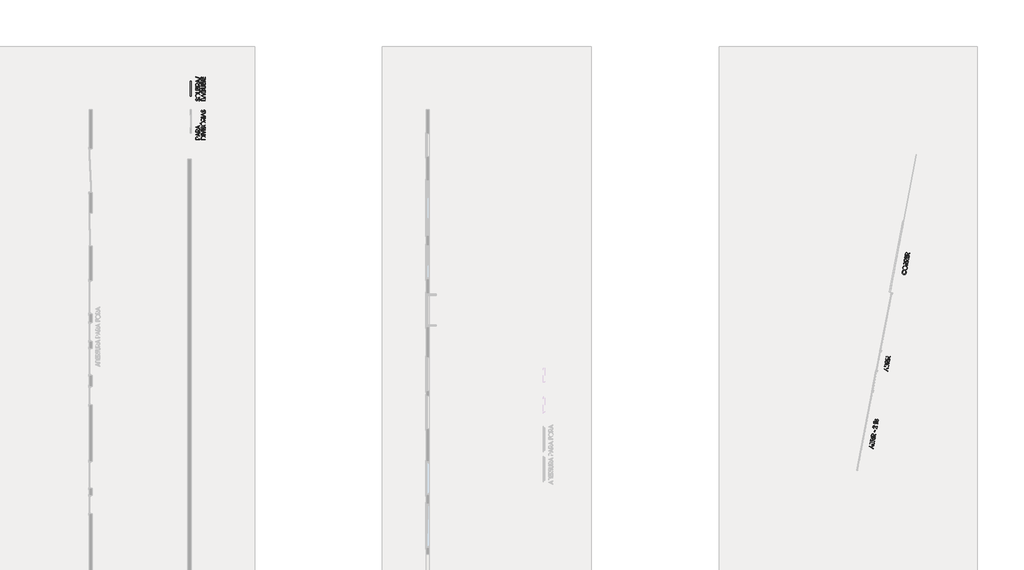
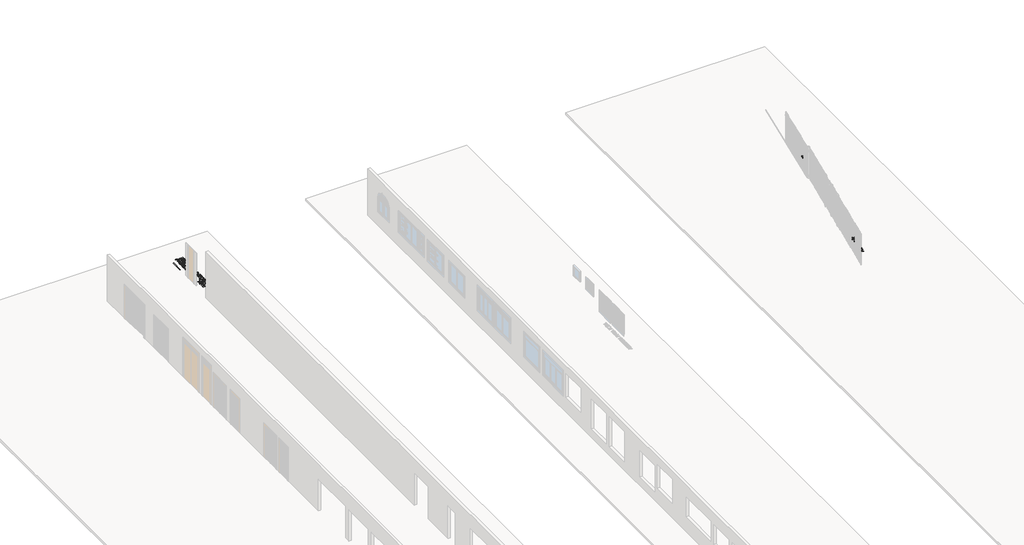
# One storey, part 15 of 15: 6 proxies.
"""IFC4 building model written with IfcOpenShell, lengths in millimetres."""

from ifc_helpers import new_model, si_unit, origin, origin_with_axes, place, context, project, spatial, polyline, outline, extrude, transform, mapped, element, save
from components import generic_models_b3cb257f

model = new_model("IFC4")

# Units and contexts
model_context = context("Model", 3, world=origin())
ifc_project = project(units=[si_unit("LENGTHUNIT", "METRE", prefix="MILLI")], contexts=[model_context])

# Site, building, storey
site = spatial("IfcSite", under=ifc_project)
building = spatial("IfcBuilding", under=site)
storey = spatial("IfcBuildingStorey", under=building, Name="TÉRREO", Elevation=0.0)

# Proxies
placement = place(None, origin())
generic_models_shape = generic_models_b3cb257f(model_context)
element("IfcBuildingElementProxy", 1, Name="gmod - SOLEIRA INTERNA : BAGUETE 3 cm", ObjectType="gmod - SOLEIRA INTERNA : BAGUETE 3 cm", at=placement, inside=storey, context=model_context, shape_type="MappedRepresentation", body=[
    mapped(generic_models_shape, transform((13203.8161052, 30425.931803, 0.0), x_axis=(0.0, 1.0, 0.0), y_axis=(-1.0, 0.0, 0.0), z_axis=(0.0, 0.0, 1.0))),
])
element("IfcBuildingElementProxy", 2, Name="600mm Arial", ObjectType="600mm Arial", at=placement, inside=storey, context=model_context, shape_type="SweptSolid", body=[
    extrude(outline(polyline([(45051.3266741, 13978.0995642), (45251.2228158, 14025.8273413), (45247.7095411, 14005.9025702), (45177.7407751, 13989.1688315), (45165.7768807, 13921.3182152), (45225.8112655, 13881.7112782), (45222.2979908, 13861.7865071), (45050.7809227, 13975.0044541), (45051.3266741, 13978.0995642)]), holes=[polyline([(45093.4095903, 13969.0336755), (45151.4781068, 13930.7208034), (45161.0884482, 13985.2237575), (45093.4095903, 13969.0336755)])]), origin_with_axes(), (0.0, 0.0, 1.0), 10.0),
    extrude(outline(polyline([(45070.9737251, 14089.5235271), (45077.4118863, 14126.0361538), (45082.1370948, 14145.3046791), (45088.5357627, 14159.0049364), (45096.9309378, 14168.4387767), (45107.6456677, 14174.908051), (45119.8159222, 14178.0726973), (45132.5776708, 14177.5926535), (45153.6909773, 14167.8112469), (45161.4685534, 14158.9663785), (45166.8519382, 14147.713849), (45182.4651205, 14167.8237885), (45200.8704704, 14177.0446036), (45222.3080378, 14177.7274727), (45242.4844476, 14169.9500271), (45257.7476922, 14154.5993046), (45266.1375391, 14133.3548279), (45265.6937557, 14107.8961196), (45256.68033, 14056.7784421), (45070.9737251, 14089.5235271)]), holes=[polyline([(45167.101536, 14091.7216451), (45244.479288, 14078.0778597), (45248.5638963, 14101.2428242), (45249.5268088, 14132.0140829), (45238.7130577, 14149.7279488), (45219.8556679, 14159.011847), (45206.9083458, 14159.1817926), (45194.9551483, 14154.9504139), (45184.7989389, 14146.6997237), (45177.2425811, 14134.811735), (45168.9519744, 14102.2160027), (45167.101536, 14091.7216451)]), polyline([(45089.723784, 14105.3654305), (45151.6259856, 14094.4504022), (45153.5020061, 14105.0898431), (45154.7681124, 14134.1870378), (45145.4849797, 14150.6835851), (45128.4810237, 14159.1669583), (45116.257366, 14159.0223096), (45106.0882733, 14153.9153672), (45098.3749152, 14143.3640102), (45093.5184618, 14126.8861178), (45089.723784, 14105.3654305)])]), origin_with_axes(), (0.0, 0.0, 1.0), 10.0),
    extrude(outline(polyline([(45097.169793, 14238.088811), (45103.7785016, 14275.5686596), (45113.6750562, 14317.5549716), (45122.1115327, 14331.7124427), (45134.1691385, 14342.0151379), (45148.9590358, 14347.5227598), (45165.5923865, 14347.2950113), (45179.0021821, 14343.0668094), (45190.0214673, 14335.5327326), (45198.2124659, 14325.0379956), (45203.1374015, 14311.9278128), (45204.6001299, 14295.1958441), (45202.404507, 14273.8357496), (45304.1607031, 14326.0530192), (45300.1869506, 14303.5167489), (45198.4307545, 14251.2994793), (45196.392714, 14239.7411776), (45286.1509064, 14223.9143865), (45282.8763979, 14205.343726), (45097.169793, 14238.088811)]), holes=[polyline([(45115.9198519, 14253.9307144), (45180.9171636, 14242.4699346), (45186.9006894, 14275.2730087), (45188.253589, 14304.1554406), (45179.1383186, 14320.4727951), (45162.1727947, 14328.7499329), (45143.8219282, 14326.6252306), (45130.1732564, 14314.9700144), (45121.8463712, 14287.5416754), (45115.9198519, 14253.9307144)])]), origin_with_axes(), (0.0, 0.0, 1.0), 10.0),
    extrude(outline(polyline([(45125.0031152, 14395.9394251), (45128.2776237, 14414.5100856), (45313.9842286, 14381.7650006), (45310.7097201, 14363.1943402), (45125.0031152, 14395.9394251)])), origin_with_axes(), (0.0, 0.0, 1.0), 10.0),
    extrude(outline(polyline([(45135.9181435, 14457.8416267), (45142.5268521, 14495.3214753), (45152.4234067, 14537.3077874), (45160.8598832, 14551.4652585), (45172.917489, 14561.7679536), (45187.7073863, 14567.2755756), (45204.340737, 14567.047827), (45217.7505326, 14562.8196251), (45228.7698178, 14555.2855484), (45236.9608164, 14544.7908113), (45241.885752, 14531.6806285), (45243.3484804, 14514.9486599), (45241.1528575, 14493.5885653), (45342.9090536, 14545.8058349), (45338.9353011, 14523.2695647), (45237.179105, 14471.052295), (45235.1410645, 14459.4939933), (45324.8992569, 14443.6672023), (45321.6247484, 14425.0965418), (45135.9181435, 14457.8416267)]), holes=[polyline([(45154.6682024, 14473.6835301), (45219.6655141, 14462.2227504), (45225.6490399, 14495.0258244), (45227.0019395, 14523.9082564), (45217.8866691, 14540.2256109), (45200.9211452, 14548.5027486), (45182.5702787, 14546.3780463), (45168.9216069, 14534.7228301), (45160.5947217, 14507.2944911), (45154.6682024, 14473.6835301)])]), origin_with_axes(), (0.0, 0.0, 1.0), 10.0),
    extrude(outline(polyline([(45281.903844, 14652.3029227), (45294.4561266, 14723.4904546), (45309.931677, 14720.7616975), (45297.3793945, 14649.5741657), (45281.903844, 14652.3029227)])), origin_with_axes(), (0.0, 0.0, 1.0), 10.0),
    extrude(outline(polyline([(45262.0320576, 14847.2873017), (45258.7575491, 14828.7166412), (45236.1889285, 14837.7386657), (45219.6834506, 14854.280789), (45210.703633, 14875.8910832), (45210.703633, 14900.11762), (45218.8753318, 14922.2704392), (45234.4457225, 14938.1431915), (45254.5110471, 14946.7035561), (45276.1591873, 14946.9192125), (45291.0994832, 14942.3214127), (45304.3889368, 14934.0878558), (45336.5333985, 14897.9276561), (45379.0240667, 14841.1192168), (45394.5609273, 14929.233132), (45410.0364777, 14926.5043749), (45387.6606697, 14799.6048616), (45324.7896199, 14883.6427796), (45294.7860736, 14917.8048754), (45283.945734, 14924.7277221), (45271.917457, 14928.5190993), (45256.5678366, 14928.3210328), (45242.4372982, 14922.0987717), (45231.5759877, 14911.0864904), (45226.0340511, 14896.5183632), (45226.1024552, 14880.2566427), (45232.3791521, 14865.9045808), (45244.4828001, 14854.5516448), (45262.0320576, 14847.2873017)])), origin_with_axes(), (0.0, 0.0, 1.0), 10.0),
    extrude(outline(polyline([(45245.8624733, 15115.0197204), (45262.0150791, 15112.1715802), (45255.1300709, 15097.7280772), (45255.856609, 15089.5468199), (45260.0020018, 15084.7768346), (45274.4421704, 15081.4078758), (45293.1579142, 15078.1077852), (45298.0440948, 15105.8186926), (45313.5196453, 15103.0899355), (45308.6249372, 15075.330667), (45432.4293405, 15053.5006104), (45429.1377773, 15034.8332277), (45305.333374, 15056.6632843), (45302.0588655, 15038.0926238), (45286.5833151, 15040.8213809), (45289.8578236, 15059.3920414), (45268.7240251, 15063.1185003), (45248.4134125, 15069.3925031), (45239.9674375, 15080.0319287), (45238.8358934, 15095.8141691), (45245.8624733, 15115.0197204)])), origin_with_axes(), (0.0, 0.0, 1.0), 10.0),
    extrude(outline(polyline([(45249.7932348, 15139.8573473), (45253.0677433, 15158.4280078), (45444.9645683, 15124.5914201), (45441.6900598, 15106.0207596), (45249.7932348, 15139.8573473)])), origin_with_axes(), (0.0, 0.0, 1.0), 10.0),
    extrude(outline(polyline([(45341.3875492, 15257.7431112), (45351.175198, 15244.2492155), (45337.1574225, 15232.6216837), (45330.9328501, 15219.9441205), (45331.0249991, 15211.9121216), (45334.2519149, 15204.549064), (45339.7941733, 15198.9343972), (45346.8323503, 15196.147571), (45360.8563595, 15198.7609592), (45379.5150663, 15216.9127466), (45392.6669523, 15231.3357872), (45404.2152804, 15239.6339644), (45415.3454209, 15242.9446123), (45427.0834095, 15242.6326189), (45442.267805, 15236.8386565), (45453.7747807, 15225.4600351), (45460.2265394, 15210.2979691), (45460.2265394, 15193.1536734), (45451.3174406, 15170.9424314), (45434.6909472, 15155.1250037), (45423.9901618, 15168.5305865), (45438.0377831, 15180.3273821), (45444.4883307, 15194.2865144), (45444.4435468, 15204.3546141), (45440.5912636, 15213.473476), (45433.8803647, 15220.3787629), (45425.2597339, 15223.8061374), (45410.3737524, 15221.3946029), (45391.282835, 15201.9228143), (45378.948005, 15188.1036752), (45367.8028607, 15180.1831881), (45356.8611705, 15176.9515069), (45345.153758, 15177.2955075), (45331.2410173, 15182.5598215), (45320.9375071, 15192.8099756), (45315.2966894, 15206.5263355), (45315.372026, 15222.1892666), (45323.58138, 15240.7499468), (45341.3875492, 15257.7431112)])), origin_with_axes(), (0.0, 0.0, 1.0), 10.0),
])
element("IfcBuildingElementProxy", 3, Name="600mm Arial", ObjectType="600mm Arial", at=placement, inside=storey, context=model_context, shape_type="SweptSolid", body=[
    extrude(outline(polyline([(45734.2802654, 17625.6595653), (45934.176407, 17673.3873424), (45930.6631323, 17653.4625713), (45860.6943663, 17636.7288326), (45848.730472, 17568.8782163), (45908.7648568, 17529.2712793), (45905.251582, 17509.3465082), (45733.734514, 17622.5644552), (45734.2802654, 17625.6595653)]), holes=[polyline([(45776.3631816, 17616.5936766), (45834.4316981, 17578.2808045), (45844.0420394, 17632.7837586), (45776.3631816, 17616.5936766)])]), origin_with_axes(), (0.0, 0.0, 1.0), 10.0),
    extrude(outline(polyline([(45753.9273164, 17737.0835282), (45760.3654776, 17773.5961549), (45765.0906861, 17792.8646802), (45771.489354, 17806.5649375), (45779.884529, 17815.9987778), (45790.599259, 17822.4680521), (45802.7695134, 17825.6326984), (45815.531262, 17825.1526546), (45836.6445686, 17815.371248), (45844.4221447, 17806.5263796), (45849.8055295, 17795.2738501), (45865.4187117, 17815.3837896), (45883.8240617, 17824.6046047), (45905.261629, 17825.2874738), (45925.4380389, 17817.5100282), (45940.7012835, 17802.1593057), (45949.0911303, 17780.914829), (45948.6473469, 17755.4561207), (45939.6339212, 17704.3384432), (45753.9273164, 17737.0835282)]), holes=[polyline([(45850.0551273, 17739.2816462), (45927.4328793, 17725.6378608), (45931.5174875, 17748.8028253), (45932.4804001, 17779.574084), (45921.666649, 17797.2879499), (45902.8092592, 17806.5718481), (45889.861937, 17806.7417937), (45877.9087396, 17802.510415), (45867.7525302, 17794.2597248), (45860.1961724, 17782.3717361), (45851.9055657, 17749.7760038), (45850.0551273, 17739.2816462)]), polyline([(45772.6773752, 17752.9254316), (45834.5795769, 17742.0104033), (45836.4555974, 17752.6498442), (45837.7217036, 17781.7470389), (45828.4385709, 17798.2435862), (45811.4346149, 17806.7269594), (45799.2109573, 17806.5823107), (45789.0418645, 17801.4753683), (45781.3285065, 17790.9240113), (45776.4720531, 17774.4461189), (45772.6773752, 17752.9254316)])]), origin_with_axes(), (0.0, 0.0, 1.0), 10.0),
    extrude(outline(polyline([(45780.1233843, 17885.6488121), (45786.7320928, 17923.1286607), (45796.6286475, 17965.1149727), (45805.0651239, 17979.2724438), (45817.1227298, 17989.575139), (45831.912627, 17995.0827609), (45848.5459778, 17994.8550124), (45861.9557733, 17990.6268105), (45872.9750586, 17983.0927337), (45881.1660572, 17972.5979967), (45886.0909928, 17959.4878139), (45887.5537212, 17942.7558452), (45885.3580982, 17921.3957507), (45987.1142944, 17973.6130203), (45983.1405419, 17951.07675), (45881.3843457, 17898.8594804), (45879.3463053, 17887.3011787), (45969.1044976, 17871.4743876), (45965.8299891, 17852.9037271), (45780.1233843, 17885.6488121)]), holes=[polyline([(45798.8734432, 17901.4907155), (45863.8707549, 17890.0299357), (45869.8542807, 17922.8330098), (45871.2071802, 17951.7154417), (45862.0919098, 17968.0327962), (45845.126386, 17976.309934), (45826.7755194, 17974.1852317), (45813.1268476, 17962.5300155), (45804.7999625, 17935.1016765), (45798.8734432, 17901.4907155)])]), origin_with_axes(), (0.0, 0.0, 1.0), 10.0),
    extrude(outline(polyline([(45807.9567065, 18043.4994262), (45811.231215, 18062.0700867), (45996.9378198, 18029.3250017), (45993.6633113, 18010.7543413), (45807.9567065, 18043.4994262)])), origin_with_axes(), (0.0, 0.0, 1.0), 10.0),
    extrude(outline(polyline([(45818.8717348, 18105.4016278), (45825.4804433, 18142.8814764), (45835.376998, 18184.8677885), (45843.8134744, 18199.0252596), (45855.8710803, 18209.3279547), (45870.6609775, 18214.8355767), (45887.2943283, 18214.6078281), (45900.7041238, 18210.3796262), (45911.7234091, 18202.8455495), (45919.9144077, 18192.3508124), (45924.8393433, 18179.2406296), (45926.3020717, 18162.508661), (45924.1064487, 18141.1485664), (46025.8626449, 18193.365836), (46021.8888924, 18170.8295658), (45920.1326962, 18118.6122961), (45918.0946558, 18107.0539944), (46007.8528481, 18091.2272034), (46004.5783397, 18072.6565429), (45818.8717348, 18105.4016278)]), holes=[polyline([(45837.6217937, 18121.2435312), (45902.6191054, 18109.7827515), (45908.6026312, 18142.5858255), (45909.9555307, 18171.4682575), (45900.8402603, 18187.785612), (45883.8747365, 18196.0627497), (45865.5238699, 18193.9380474), (45851.8751981, 18182.2828312), (45843.548313, 18154.8544922), (45837.6217937, 18121.2435312)])]), origin_with_axes(), (0.0, 0.0, 1.0), 10.0),
])
element("IfcBuildingElementProxy", 4, Name="600mm Arial", ObjectType="600mm Arial", at=placement, inside=storey, context=model_context, shape_type="SweptSolid", body=[
    extrude(outline(polyline([(46634.186204, 22243.9618492), (46642.910381, 22227.2646727), (46627.1849705, 22216.3807922), (46614.722857, 22202.4407356), (46605.7110304, 22185.7979829), (46600.3364805, 22166.8060143), (46599.288032, 22145.0940478), (46603.9196442, 22124.063467), (46613.613105, 22105.15716), (46627.7502022, 22089.8180151), (46645.7018174, 22078.6493767), (46666.8388323, 22072.2545892), (46699.3530156, 22072.4802931), (46714.2434617, 22077.3032452), (46728.2228108, 22085.2662641), (46740.4441314, 22095.8081147), (46750.0604921, 22108.3675619), (46761.4783341, 22139.5392459), (46762.8194647, 22158.4570461), (46760.0124365, 22176.4732098), (46753.0572495, 22193.5877369), (46741.9539036, 22209.8006274), (46755.7176358, 22222.5325787), (46767.9217831, 22204.467586), (46775.7184467, 22183.6767564), (46778.7960531, 22160.7261419), (46776.8430288, 22136.1817946), (46770.822151, 22113.7010664), (46761.2613014, 22094.4748937), (46748.1604801, 22078.5032765), (46731.5196869, 22065.7862147), (46715.5479471, 22058.065429), (46698.6885752, 22053.511738), (46662.3069353, 22053.9056403), (46643.366201, 22059.0670226), (46626.6353458, 22067.4819832), (46612.1143696, 22079.1505221), (46599.8032726, 22094.0726394), (46590.4674229, 22111.2158153), (46584.8721887, 22129.5475301), (46583.01757, 22149.067784), (46584.9035669, 22169.7765769), (46591.5223268, 22193.8098835), (46602.3225436, 22214.5503207), (46616.7339314, 22231.4502039), (46634.186204, 22243.9618492)])), origin_with_axes(), (0.0, 0.0, 1.0), 10.0),
    extrude(outline(polyline([(46621.5115486, 22377.3907578), (46626.799746, 22397.2627936), (46635.2455297, 22414.8047483), (46646.8488999, 22430.016622), (46661.6098565, 22442.8984146), (46678.44005, 22452.7039519), (46696.2511306, 22458.6870596), (46715.0430986, 22460.8477377), (46734.8159538, 22459.1859862), (46753.7914476, 22454.0184748), (46770.6265815, 22445.5851271), (46785.3213553, 22433.8859429), (46797.8757691, 22418.9209224), (46807.4767869, 22401.8587685), (46813.3113729, 22383.8681843), (46815.3795271, 22364.9491698), (46813.6812493, 22345.101725), (46808.4511373, 22325.6121317), (46800.0261168, 22308.3470048), (46788.406188, 22293.3063442), (46773.5913507, 22280.49015), (46756.7641799, 22270.6840798), (46739.1072502, 22264.6737911), (46720.6205616, 22262.459284), (46701.3041143, 22264.0405585), (46676.4837411, 22271.7455287), (46654.736215, 22285.5656104), (46637.3798591, 22304.3520839), (46625.7329965, 22326.9562294), (46620.2815765, 22351.8213522), (46621.5115486, 22377.3907578)]), holes=[polyline([(46637.1320642, 22375.4841393), (46636.2985961, 22354.8499886), (46641.0976169, 22334.3446339), (46650.9571142, 22315.6022759), (46665.3050757, 22300.2571154), (46683.407469, 22289.0244922), (46704.5302617, 22282.6197463), (46736.4538031, 22282.9246639), (46765.1959496, 22295.6583458), (46786.9921338, 22317.9940578), (46798.0777884, 22347.1050657), (46799.1088613, 22368.4710431), (46794.5445054, 22389.1407119), (46784.8727725, 22407.781398), (46770.5817143, 22423.0604272), (46752.497106, 22434.2525159), (46731.4447231, 22440.6323804), (46709.6733564, 22441.8034983), (46689.1416303, 22437.4205113), (46670.6602348, 22427.8391198), (46655.0398601, 22413.4150243), (46643.467979, 22395.5095793), (46637.1320642, 22375.4841393)])]), origin_with_axes(), (0.0, 0.0, 1.0), 10.0),
    extrude(outline(polyline([(46648.5600294, 22512.6913222), (46655.168738, 22550.1711709), (46665.0652926, 22592.1574829), (46673.5017691, 22606.314954), (46685.5593749, 22616.6176492), (46700.3492721, 22622.1252711), (46716.9826229, 22621.8975226), (46730.3924184, 22617.6693207), (46741.4117037, 22610.1352439), (46749.6027023, 22599.6405069), (46754.5276379, 22586.5303241), (46755.9903663, 22569.7983554), (46753.7947433, 22548.4382608), (46855.5509395, 22600.6555305), (46851.577187, 22578.1192602), (46749.8209909, 22525.9019906), (46747.7829504, 22514.3436888), (46837.5411428, 22498.5168978), (46834.2666343, 22479.9462373), (46648.5600294, 22512.6913222)]), holes=[polyline([(46667.3100883, 22528.5332256), (46732.3074, 22517.0724459), (46738.2909258, 22549.87552), (46739.6438254, 22578.7579519), (46730.5285549, 22595.0753064), (46713.5630311, 22603.3524442), (46695.2121645, 22601.2277419), (46681.5634928, 22589.5725256), (46673.2366076, 22562.1441867), (46667.3100883, 22528.5332256)])]), origin_with_axes(), (0.0, 0.0, 1.0), 10.0),
    extrude(outline(polyline([(46676.3933516, 22670.5419364), (46683.0020602, 22708.021785), (46692.8986148, 22750.008097), (46701.3350913, 22764.1655681), (46713.3926971, 22774.4682633), (46728.1825943, 22779.9758853), (46744.8159451, 22779.7481367), (46758.2257406, 22775.5199348), (46769.2450259, 22767.985858), (46777.4360245, 22757.491121), (46782.3609601, 22744.3809382), (46783.8236885, 22727.6489695), (46781.6280655, 22706.288875), (46883.3842617, 22758.5061446), (46879.4105092, 22735.9698743), (46777.654313, 22683.7526047), (46775.6162726, 22672.194303), (46865.374465, 22656.3675119), (46862.0999565, 22637.7968514), (46676.3933516, 22670.5419364)]), holes=[polyline([(46695.1434105, 22686.3838398), (46760.1407222, 22674.92306), (46766.124248, 22707.7261341), (46767.4771475, 22736.608566), (46758.3618771, 22752.9259205), (46741.3963533, 22761.2030583), (46723.0454867, 22759.078356), (46709.396815, 22747.4231398), (46701.0699298, 22719.9948008), (46695.1434105, 22686.3838398)])]), origin_with_axes(), (0.0, 0.0, 1.0), 10.0),
    extrude(outline(polyline([(46704.2266738, 22828.3925505), (46723.3279733, 22936.7214033), (46738.8035237, 22933.9926462), (46722.9767327, 22844.2344539), (46784.8789343, 22833.3194256), (46800.7057254, 22923.0776179), (46816.1812758, 22920.3488609), (46800.3544847, 22830.5906685), (46877.7322367, 22816.9468831), (46893.5590278, 22906.7050755), (46909.0345782, 22903.9763184), (46889.9332786, 22795.6474656), (46704.2266738, 22828.3925505)])), origin_with_axes(), (0.0, 0.0, 1.0), 10.0),
    extrude(outline(polyline([(46728.7854875, 22967.6725041), (46735.394196, 23005.1523528), (46745.2907507, 23047.1386648), (46753.7272271, 23061.2961359), (46765.784833, 23071.5988311), (46780.5747302, 23077.106453), (46797.208081, 23076.8787045), (46810.6178765, 23072.6505025), (46821.6371618, 23065.1164258), (46829.8281604, 23054.6216888), (46834.753096, 23041.511506), (46836.2158244, 23024.7795373), (46834.0202014, 23003.4194427), (46935.7763976, 23055.6367124), (46931.8026451, 23033.1004421), (46830.0464489, 22980.8831724), (46828.0084085, 22969.3248707), (46917.7666008, 22953.4980797), (46914.4920923, 22934.9274192), (46728.7854875, 22967.6725041)]), holes=[polyline([(46747.5355464, 22983.5144075), (46812.5328581, 22972.0536278), (46818.5163839, 23004.8567019), (46819.8692834, 23033.7391338), (46810.754013, 23050.0564883), (46793.7884892, 23058.3336261), (46775.4376226, 23056.2089238), (46761.7889508, 23044.5537075), (46753.4620657, 23017.1253686), (46747.5355464, 22983.5144075)])]), origin_with_axes(), (0.0, 0.0, 1.0), 10.0),
])
element("IfcBuildingElementProxy", 5, Name="600mm Arial", ObjectType="600mm Arial", at=placement, inside=storey, context=model_context, shape_type="SweptSolid", body=[
    extrude(outline(polyline([(13586.6446281, 30207.3073901), (13576.970521, 30223.4145329), (13600.5419496, 30242.6890865), (13606.4348067, 30253.3760285), (13608.3990924, 30264.7627472), (13603.8321281, 30283.5707829), (13591.6044496, 30296.9770329), (13575.3499853, 30301.5931044), (13565.6390478, 30299.9111847), (13556.1490924, 30294.8654258), (13542.2272174, 30281.8029258), (13525.7026639, 30261.0797115), (13499.8231996, 30230.3386401), (13486.4292264, 30222.493774), (13471.9794496, 30219.8788186), (13460.6172844, 30221.3888633), (13450.298646, 30225.9189972), (13441.5452978, 30233.1868544), (13434.8790031, 30242.9100686), (13429.2562353, 30266.6779258), (13434.8053424, 30292.1890865), (13442.6870389, 30304.3983499), (13455.2339139, 30317.3073901), (13466.970521, 30301.8386401), (13449.2428424, 30282.8832829), (13444.970521, 30265.7939972), (13446.7322397, 30254.9535954), (13452.017396, 30246.2984615), (13459.892954, 30240.6265865), (13469.4258781, 30238.7359615), (13481.5553424, 30241.3877472), (13494.3723067, 30251.0618544), (13513.6223067, 30276.2538186), (13530.5704094, 30297.6154258), (13545.5665031, 30311.0216758), (13559.6172844, 30318.0931044), (13573.7294496, 30320.4502472), (13592.7339139, 30316.4602919), (13609.0865924, 30304.4904258), (13620.3566817, 30286.7995776), (13624.1133781, 30265.6466758), (13621.9588022, 30248.8765865), (13615.4950746, 30233.7270329), (13603.9733112, 30219.9524794), (13586.6446281, 30207.3073901)])), origin_with_axes(), (0.0, 0.0, 1.0), 10.0),
    extrude(outline(polyline([(13429.2562353, 30449.6511401), (13431.0133502, 30470.1395608), (13436.2846951, 30488.8816088), (13445.0702699, 30505.877284), (13457.3700746, 30521.1265865), (13472.2418659, 30533.7056881), (13488.7434005, 30542.6907606), (13506.8746784, 30548.0818041), (13526.6356996, 30549.8788186), (13546.220242, 30548.0848733), (13564.2640478, 30542.7030374), (13580.767117, 30533.7333108), (13595.7294496, 30521.1756936), (13608.1474183, 30506.0399515), (13617.017396, 30489.3358499), (13622.3393826, 30471.063389), (13624.1133781, 30451.2225686), (13622.3470556, 30431.1208666), (13617.048088, 30412.6550463), (13608.2164752, 30395.8251077), (13595.8522174, 30380.6310508), (13580.9834953, 30368.0519492), (13564.6384897, 30359.0668767), (13546.8172007, 30353.6758332), (13527.5196281, 30351.8788186), (13501.7383781, 30355.1567204), (13477.9214139, 30364.9904258), (13457.5665031, 30380.477591), (13442.1714139, 30400.7158722), (13432.4850299, 30424.2566088), (13429.2562353, 30449.6511401)]), holes=[polyline([(13444.970521, 30450.4859615), (13447.7327978, 30430.0205597), (13456.0196281, 30410.6600686), (13468.9839139, 30393.9145329), (13485.7785567, 30381.2939972), (13505.5564585, 30373.3754704), (13527.470521, 30370.7359615), (13558.8561237, 30376.5797115), (13584.9504317, 30394.1109615), (13602.5369272, 30419.8922115), (13608.3990924, 30450.4859615), (13605.704338, 30471.7063856), (13597.6200746, 30491.2694436), (13584.8583558, 30507.947457), (13568.1312353, 30520.5127472), (13548.3778871, 30528.3944436), (13526.5374853, 30531.0216758), (13504.8935121, 30528.3944436), (13485.4348067, 30520.5127472), (13468.8979764, 30507.8676579), (13456.0196281, 30490.9502472), (13447.7327978, 30471.3073901), (13444.970521, 30450.4859615)])]), origin_with_axes(), (0.0, 0.0, 1.0), 10.0),
    extrude(outline(polyline([(13432.3990924, 30587.5931044), (13432.3990924, 30606.4502472), (13605.2562353, 30606.4502472), (13605.2562353, 30681.8788186), (13620.970521, 30681.8788186), (13620.970521, 30587.5931044), (13432.3990924, 30587.5931044)])), origin_with_axes(), (0.0, 0.0, 1.0), 10.0),
    extrude(outline(polyline([(13432.3990924, 30710.1645329), (13432.3990924, 30820.1645329), (13448.1133781, 30820.1645329), (13448.1133781, 30729.0216758), (13510.970521, 30729.0216758), (13510.970521, 30820.1645329), (13526.6848067, 30820.1645329), (13526.6848067, 30729.0216758), (13605.2562353, 30729.0216758), (13605.2562353, 30820.1645329), (13620.970521, 30820.1645329), (13620.970521, 30710.1645329), (13432.3990924, 30710.1645329)])), origin_with_axes(), (0.0, 0.0, 1.0), 10.0),
    extrude(outline(polyline([(13432.3990924, 30851.5931044), (13432.3990924, 30870.4502472), (13620.970521, 30870.4502472), (13620.970521, 30851.5931044), (13432.3990924, 30851.5931044)])), origin_with_axes(), (0.0, 0.0, 1.0), 10.0),
    extrude(outline(polyline([(13432.3990924, 30914.4502472), (13432.3990924, 30952.5082829), (13434.8544496, 30995.5752472), (13440.704338, 31010.9826133), (13450.7897174, 31023.2225686), (13464.3985344, 31031.2147561), (13480.8187353, 31033.8788186), (13494.7590255, 31032.0434392), (13506.9191817, 31026.5373008), (13516.8081326, 31017.6243544), (13523.9348067, 31005.5685508), (13528.2807889, 30989.3447785), (13529.8276639, 30967.9279258), (13620.970521, 31037.0216758), (13620.970521, 31014.1377472), (13529.8276639, 30945.0439972), (13529.8276639, 30933.3073901), (13620.970521, 30933.3073901), (13620.970521, 30914.4502472), (13432.3990924, 30914.4502472)]), holes=[polyline([(13448.1133781, 30933.3073901), (13514.1133781, 30933.3073901), (13514.3098067, 30966.6511401), (13510.626771, 30995.3297115), (13498.8165031, 31009.8163186), (13480.6714139, 31015.0216758), (13462.9682889, 31009.7426579), (13451.5508781, 30995.8944436), (13448.1133781, 30967.4368544), (13448.1133781, 30933.3073901)])]), origin_with_axes(), (0.0, 0.0, 1.0), 10.0),
    extrude(outline(polyline([(13432.3990924, 31147.0216758), (13620.970521, 31228.7359615), (13620.970521, 31208.5038186), (13554.970521, 31179.8743544), (13554.970521, 31110.9770329), (13620.970521, 31082.3966758), (13620.970521, 31062.1645329), (13432.3990924, 31143.8788186), (13432.3990924, 31147.0216758)]), holes=[polyline([(13475.4169496, 31145.4011401), (13539.2562353, 31117.7538186), (13539.2562353, 31173.0975686), (13475.4169496, 31145.4011401)])]), origin_with_axes(), (0.0, 0.0, 1.0), 10.0),
    extrude(outline(polyline([(13426.1133781, 31345.0216758), (13646.1133781, 31267.3832829), (13646.1133781, 31247.5931044), (13426.1133781, 31325.2314972), (13426.1133781, 31345.0216758)])), origin_with_axes(), (0.0, 0.0, 1.0), 10.0),
    extrude(outline(polyline([(13689.5419496, 30226.1645329), (13689.5419496, 30263.2404258), (13690.8494272, 30283.0367427), (13694.7718603, 30297.6399794), (13701.4013246, 30308.3883052), (13710.829896, 30316.6198901), (13722.2657219, 30321.8498008), (13734.9169496, 30323.5931044), (13757.408021, 30317.6265865), (13766.6033335, 30310.2666535), (13773.8589139, 30300.1198901), (13785.7428424, 30322.6355151), (13802.267396, 30334.9123008), (13823.2606996, 30339.3073901), (13844.4811237, 30335.1516981), (13862.1781103, 30322.6846222), (13874.1295612, 30303.2197785), (13878.1133781, 30278.0707829), (13878.1133781, 30226.1645329), (13689.5419496, 30226.1645329)]), holes=[polyline([(13705.2562353, 30245.0216758), (13768.1133781, 30245.0216758), (13768.1133781, 30255.8252472), (13764.3075746, 30284.7002472), (13752.3008781, 30299.3341758), (13734.0821281, 30304.7359615), (13722.0692933, 30302.4708945), (13712.9415031, 30295.6756936), (13707.1775522, 30283.9452249), (13705.2562353, 30266.8743544), (13705.2562353, 30245.0216758)]), polyline([(13783.8276639, 30245.0216758), (13862.3990924, 30245.0216758), (13862.3990924, 30268.5439972), (13858.0040031, 30299.0149794), (13844.2785567, 30314.5819436), (13824.095521, 30320.4502472), (13811.3153871, 30318.369332), (13800.2785567, 30312.1265865), (13791.7093603, 30302.2376356), (13786.3321281, 30289.2181044), (13783.8276639, 30255.6779258), (13783.8276639, 30245.0216758)])]), origin_with_axes(), (0.0, 0.0, 1.0), 10.0),
    extrude(outline(polyline([(13689.5419496, 30449.3073901), (13878.1133781, 30531.0216758), (13878.1133781, 30510.7895329), (13812.1133781, 30482.1600686), (13812.1133781, 30413.2627472), (13878.1133781, 30384.6823901), (13878.1133781, 30364.4502472), (13689.5419496, 30446.1645329), (13689.5419496, 30449.3073901)]), holes=[polyline([(13732.5598067, 30447.6868544), (13796.3990924, 30420.0395329), (13796.3990924, 30475.3832829), (13732.5598067, 30447.6868544)])]), origin_with_axes(), (0.0, 0.0, 1.0), 10.0),
    extrude(outline(polyline([(13719.6446281, 30741.5931044), (13733.5419496, 30726.9100686), (13719.9454094, 30710.759957), (13710.0932889, 30693.1489079), (13704.1083558, 30675.0467874), (13702.1133781, 30657.4234615), (13704.8695165, 30636.2828365), (13713.1379317, 30616.1734615), (13726.1329094, 30598.7833945), (13743.0687353, 30585.8006936), (13762.5028871, 30577.7164302), (13782.9928424, 30575.0216758), (13804.0106996, 30577.8760285), (13823.9481996, 30586.4390865), (13841.2707442, 30600.0417651), (13854.4437353, 30618.0149794), (13862.767396, 30639.1249124), (13865.5419496, 30662.1377472), (13861.1714139, 30689.0484615), (13848.0598067, 30711.4413186), (13827.9749853, 30727.4748008), (13802.6848067, 30735.3073901), (13802.6848067, 30675.5931044), (13786.970521, 30675.5931044), (13786.970521, 30754.1645329), (13807.5126527, 30752.4749403), (13825.8265478, 30747.6516981), (13841.9122063, 30739.6948064), (13855.7696281, 30728.6042651), (13866.9200188, 30714.877284), (13874.8845835, 30699.0110731), (13879.6633223, 30681.0056323), (13881.2562353, 30660.8609615), (13879.064829, 30636.4455039), (13872.4906103, 30614.712524), (13861.533579, 30595.6620218), (13846.1937353, 30579.2939972), (13817.0854764, 30561.946899), (13783.7785567, 30556.1645329), (13758.3226415, 30559.4485731), (13734.6959674, 30569.3006936), (13714.4638246, 30584.8860731), (13699.1915031, 30605.3698901), (13689.5971951, 30629.8006936), (13686.3990924, 30657.2270329), (13688.3756549, 30679.9268097), (13694.3053424, 30701.2761401), (13704.5932889, 30721.6924347), (13719.6446281, 30741.5931044)])), origin_with_axes(), (0.0, 0.0, 1.0), 10.0),
    extrude(outline(polyline([(13689.5419496, 30791.8788186), (13689.5419496, 30810.7359615), (13803.7651639, 30810.7359615), (13829.1535567, 30811.5216758), (13847.8633781, 30818.1265865), (13860.4593603, 30834.0373008), (13865.5419496, 30855.6198901), (13861.564271, 30873.7649794), (13850.4906103, 30888.2515865), (13833.376771, 30896.7716758), (13803.7651639, 30898.7359615), (13689.5419496, 30898.7359615), (13689.5419496, 30917.5931044), (13802.439271, 30917.5931044), (13842.9281103, 30912.6332829), (13857.3717487, 30905.181274), (13869.814271, 30892.7448901), (13878.3957442, 30876.2571669), (13881.2562353, 30856.6511401), (13878.5553424, 30835.3509169), (13870.4526639, 30817.3163186), (13857.8935121, 30803.6277026), (13841.8231996, 30795.3654258), (13802.439271, 30791.8788186), (13689.5419496, 30791.8788186)])), origin_with_axes(), (0.0, 0.0, 1.0), 10.0),
    extrude(outline(polyline([(13689.5419496, 30961.5931044), (13689.5419496, 31071.5931044), (13705.2562353, 31071.5931044), (13705.2562353, 30980.4502472), (13768.1133781, 30980.4502472), (13768.1133781, 31071.5931044), (13783.8276639, 31071.5931044), (13783.8276639, 30980.4502472), (13862.3990924, 30980.4502472), (13862.3990924, 31071.5931044), (13878.1133781, 31071.5931044), (13878.1133781, 30961.5931044), (13689.5419496, 30961.5931044)])), origin_with_axes(), (0.0, 0.0, 1.0), 10.0),
    extrude(outline(polyline([(13705.2562353, 31084.1645329), (13689.5419496, 31084.1645329), (13689.5419496, 31184.7359615), (13705.2562353, 31184.7359615), (13705.2562353, 31143.8788186), (13878.1133781, 31143.8788186), (13878.1133781, 31125.0216758), (13705.2562353, 31125.0216758), (13705.2562353, 31084.1645329)])), origin_with_axes(), (0.0, 0.0, 1.0), 10.0),
    extrude(outline(polyline([(13689.5419496, 31213.0216758), (13689.5419496, 31323.0216758), (13705.2562353, 31323.0216758), (13705.2562353, 31231.8788186), (13768.1133781, 31231.8788186), (13768.1133781, 31323.0216758), (13783.8276639, 31323.0216758), (13783.8276639, 31231.8788186), (13862.3990924, 31231.8788186), (13862.3990924, 31323.0216758), (13878.1133781, 31323.0216758), (13878.1133781, 31213.0216758), (13689.5419496, 31213.0216758)])), origin_with_axes(), (0.0, 0.0, 1.0), 10.0),
])
element("IfcBuildingElementProxy", 6, Name="600mm Arial", ObjectType="600mm Arial", at=placement, inside=storey, context=model_context, shape_type="SweptSolid", body=[
    extrude(outline(polyline([(13432.3990924, 28400.7266615), (13432.3990924, 28438.7846972), (13435.0999853, 28482.9811258), (13440.9928424, 28497.8790052), (13450.9124853, 28509.7690722), (13464.3801192, 28517.5586927), (13480.9169496, 28520.1552329), (13497.533579, 28517.6139383), (13510.9459674, 28509.9900544), (13520.8226415, 28497.9096972), (13526.8321281, 28481.9989829), (13529.8276639, 28433.2846972), (13529.8276639, 28419.5838044), (13620.970521, 28419.5838044), (13620.970521, 28400.7266615), (13432.3990924, 28400.7266615)]), holes=[polyline([(13448.1133781, 28419.5838044), (13514.1133781, 28419.5838044), (13514.4571281, 28452.3873758), (13510.8231996, 28481.5324651), (13499.0865924, 28496.0190722), (13480.9660567, 28501.2980901), (13463.0910567, 28496.0190722), (13451.5508781, 28482.1217508), (13448.1133781, 28453.8605901), (13448.1133781, 28419.5838044)])]), origin_with_axes(), (0.0, 0.0, 1.0), 10.0),
    extrude(outline(polyline([(13432.3990924, 28630.1552329), (13620.970521, 28711.8695186), (13620.970521, 28691.6373758), (13554.970521, 28663.0079115), (13554.970521, 28594.1105901), (13620.970521, 28565.5302329), (13620.970521, 28545.2980901), (13432.3990924, 28627.0123758), (13432.3990924, 28630.1552329)]), holes=[polyline([(13475.4169496, 28628.5346972), (13539.2562353, 28600.8873758), (13539.2562353, 28656.2311258), (13475.4169496, 28628.5346972)])]), origin_with_axes(), (0.0, 0.0, 1.0), 10.0),
    extrude(outline(polyline([(13432.3990924, 28743.2980901), (13432.3990924, 28781.3561258), (13434.8544496, 28824.4230901), (13440.704338, 28839.8304561), (13450.7897174, 28852.0704115), (13464.3985344, 28860.062599), (13480.8187353, 28862.7266615), (13494.7590255, 28860.891282), (13506.9191817, 28855.3851436), (13516.8081326, 28846.4721972), (13523.9348067, 28834.4163936), (13528.2807889, 28818.1926213), (13529.8276639, 28796.7757686), (13620.970521, 28865.8695186), (13620.970521, 28842.9855901), (13529.8276639, 28773.8918401), (13529.8276639, 28762.1552329), (13620.970521, 28762.1552329), (13620.970521, 28743.2980901), (13432.3990924, 28743.2980901)]), holes=[polyline([(13448.1133781, 28762.1552329), (13514.1133781, 28762.1552329), (13514.3098067, 28795.4989829), (13510.626771, 28824.1775544), (13498.8165031, 28838.6641615), (13480.6714139, 28843.8695186), (13462.9682889, 28838.5905008), (13451.5508781, 28824.7422865), (13448.1133781, 28796.2846972), (13448.1133781, 28762.1552329)])]), origin_with_axes(), (0.0, 0.0, 1.0), 10.0),
    extrude(outline(polyline([(13432.3990924, 28975.8695186), (13620.970521, 29057.5838044), (13620.970521, 29037.3516615), (13554.970521, 29008.7221972), (13554.970521, 28939.8248758), (13620.970521, 28911.2445186), (13620.970521, 28891.0123758), (13432.3990924, 28972.7266615), (13432.3990924, 28975.8695186)]), holes=[polyline([(13475.4169496, 28974.2489829), (13539.2562353, 28946.6016615), (13539.2562353, 29001.9454115), (13475.4169496, 28974.2489829)])]), origin_with_axes(), (0.0, 0.0, 1.0), 10.0),
    extrude(outline(polyline([(13878.1133781, 28400.7266615), (13689.5419496, 28400.7266615), (13689.5419496, 28440.1596972), (13691.236146, 28477.0146079), (13696.3187353, 28502.1329115), (13709.4671728, 28526.8031124), (13729.6624853, 28545.4208579), (13755.6524406, 28557.1144963), (13786.1848067, 28561.0123758), (13812.8192933, 28557.9247642), (13836.0531103, 28548.6619294), (13854.7690701, 28534.4638267), (13867.8499853, 28516.5704115), (13875.5475299, 28492.8762151), (13878.1133781, 28461.2757686), (13878.1133781, 28400.7266615)]), holes=[polyline([(13862.3990924, 28419.5838044), (13862.3990924, 28441.5346972), (13861.1468603, 28474.890724), (13857.3901639, 28496.1909472), (13847.3723067, 28515.3181794), (13831.658021, 28529.8784472), (13811.033021, 28539.0860365), (13786.283021, 28542.1552329), (13760.188713, 28538.828224), (13738.1825746, 28528.8471972), (13721.3572397, 28512.9242061), (13710.8053424, 28491.7713044), (13706.6435121, 28468.1753222), (13705.2562353, 28433.0391615), (13705.2562353, 28419.5838044), (13862.3990924, 28419.5838044)])]), origin_with_axes(), (0.0, 0.0, 1.0), 10.0),
    extrude(outline(polyline([(13689.5419496, 28598.7266615), (13689.5419496, 28617.5838044), (13878.1133781, 28617.5838044), (13878.1133781, 28598.7266615), (13689.5419496, 28598.7266615)])), origin_with_axes(), (0.0, 0.0, 1.0), 10.0),
    extrude(outline(polyline([(13689.5419496, 28649.0123758), (13689.5419496, 28669.2445186), (13835.0464139, 28732.2980901), (13689.5419496, 28795.3516615), (13689.5419496, 28815.5838044), (13878.1133781, 28733.8695186), (13878.1133781, 28730.7266615), (13689.5419496, 28649.0123758)])), origin_with_axes(), (0.0, 0.0, 1.0), 10.0),
    extrude(outline(polyline([(13689.5419496, 28847.0123758), (13689.5419496, 28865.8695186), (13878.1133781, 28865.8695186), (13878.1133781, 28847.0123758), (13689.5419496, 28847.0123758)])), origin_with_axes(), (0.0, 0.0, 1.0), 10.0),
    extrude(outline(polyline([(13843.7874853, 28891.0123758), (13834.1133781, 28907.1195186), (13857.6848067, 28926.3940722), (13863.5776639, 28937.0810142), (13865.5419496, 28948.4677329), (13860.9749853, 28967.2757686), (13848.7473067, 28980.6820186), (13832.4928424, 28985.2980901), (13822.7819049, 28983.6161704), (13813.2919496, 28978.5704115), (13799.3700746, 28965.5079115), (13782.845521, 28944.7846972), (13756.9660567, 28914.0436258), (13743.5720835, 28906.1987597), (13729.1223067, 28903.5838044), (13717.7601415, 28905.093849), (13707.4415031, 28909.6239829), (13698.6881549, 28916.8918401), (13692.0218603, 28926.6150544), (13686.3990924, 28950.3829115), (13691.9481996, 28975.8940722), (13699.829896, 28988.1033356), (13712.376771, 29001.0123758), (13724.1133781, 28985.5436258), (13706.3856996, 28966.5882686), (13702.1133781, 28949.4989829), (13703.8750969, 28938.6585811), (13709.1602531, 28930.0034472), (13717.0358112, 28924.3315722), (13726.5687353, 28922.4409472), (13738.6981996, 28925.0927329), (13751.5151639, 28934.7668401), (13770.7651639, 28959.9588044), (13787.7132665, 28981.3204115), (13802.7093603, 28994.7266615), (13816.7601415, 29001.7980901), (13830.8723067, 29004.1552329), (13849.876771, 29000.1652776), (13866.2294496, 28988.1954115), (13877.4995389, 28970.5045633), (13881.2562353, 28949.3516615), (13879.1016594, 28932.5815722), (13872.6379317, 28917.4320186), (13861.1161683, 28903.6574651), (13843.7874853, 28891.0123758)])), origin_with_axes(), (0.0, 0.0, 1.0), 10.0),
    extrude(outline(polyline([(13629.8276639, 29144.2088044), (13629.8276639, 29170.7266615), (13670.6848067, 29134.3382686), (13670.6848067, 29117.2980901), (13629.8276639, 29144.2088044)])), origin_with_axes(), (0.0, 0.0, 1.0), 10.0),
    extrude(outline(polyline([(13686.3990924, 29133.3561258), (13688.1562074, 29153.8445465), (13693.4275522, 29172.5865945), (13702.213127, 29189.5822698), (13714.5129317, 29204.8315722), (13729.384723, 29217.4106738), (13745.8862576, 29226.3957463), (13764.0175355, 29231.7867898), (13783.7785567, 29233.5838044), (13803.3630991, 29231.789859), (13821.4069049, 29226.4080231), (13837.9099741, 29217.4382965), (13852.8723067, 29204.8806794), (13865.2902755, 29189.7449372), (13874.1602531, 29173.0408356), (13879.4822397, 29154.7683747), (13881.2562353, 29134.9275544), (13879.4899127, 29114.8258523), (13874.1909451, 29096.360032), (13865.3593324, 29079.5300934), (13852.9950746, 29064.3360365), (13838.1263525, 29051.7569349), (13821.7813469, 29042.7718624), (13803.9600578, 29037.3808189), (13784.6624853, 29035.5838044), (13758.8812353, 29038.8617061), (13735.064271, 29048.6954115), (13714.7093603, 29064.1825767), (13699.314271, 29084.4208579), (13689.6278871, 29107.9615945), (13686.3990924, 29133.3561258)]), holes=[polyline([(13702.1133781, 29134.1909472), (13704.8756549, 29113.7255454), (13713.1624853, 29094.3650544), (13726.126771, 29077.6195186), (13742.9214139, 29064.9989829), (13762.6993156, 29057.0804561), (13784.6133781, 29054.4409472), (13815.9989808, 29060.2846972), (13842.0932889, 29077.8159472), (13859.6797844, 29103.5971972), (13865.5419496, 29134.1909472), (13862.8471951, 29155.4113713), (13854.7629317, 29174.9744294), (13842.001213, 29191.6524427), (13825.2740924, 29204.2177329), (13805.5207442, 29212.0994294), (13783.6803424, 29214.7266615), (13762.0363692, 29212.0994294), (13742.5776639, 29204.2177329), (13726.0408335, 29191.5726436), (13713.1624853, 29174.6552329), (13704.8756549, 29155.0123758), (13702.1133781, 29134.1909472)])]), origin_with_axes(), (0.0, 0.0, 1.0), 10.0),
    extrude(outline(polyline([(13689.5419496, 29271.2980901), (13689.5419496, 29309.3561258), (13691.9973067, 29352.4230901), (13697.8471951, 29367.8304561), (13707.9325746, 29380.0704115), (13721.5413915, 29388.062599), (13737.9615924, 29390.7266615), (13751.9018826, 29388.891282), (13764.0620389, 29383.3851436), (13773.9509897, 29374.4721972), (13781.0776639, 29362.4163936), (13785.423646, 29346.1926213), (13786.970521, 29324.7757686), (13878.1133781, 29393.8695186), (13878.1133781, 29370.9855901), (13786.970521, 29301.8918401), (13786.970521, 29290.1552329), (13878.1133781, 29290.1552329), (13878.1133781, 29271.2980901), (13689.5419496, 29271.2980901)]), holes=[polyline([(13705.2562353, 29290.1552329), (13771.2562353, 29290.1552329), (13771.4526639, 29323.4989829), (13767.7696281, 29352.1775544), (13755.9593603, 29366.6641615), (13737.814271, 29371.8695186), (13720.111146, 29366.5905008), (13708.6937353, 29352.7422865), (13705.2562353, 29324.2846972), (13705.2562353, 29290.1552329)])]), origin_with_axes(), (0.0, 0.0, 1.0), 10.0),
    extrude(outline(polyline([(13689.5419496, 29431.5838044), (13689.5419496, 29450.4409472), (13878.1133781, 29450.4409472), (13878.1133781, 29431.5838044), (13689.5419496, 29431.5838044)])), origin_with_axes(), (0.0, 0.0, 1.0), 10.0),
    extrude(outline(polyline([(13689.5419496, 29566.7266615), (13878.1133781, 29648.4409472), (13878.1133781, 29628.2088044), (13812.1133781, 29599.5793401), (13812.1133781, 29530.6820186), (13878.1133781, 29502.1016615), (13878.1133781, 29481.8695186), (13689.5419496, 29563.5838044), (13689.5419496, 29566.7266615)]), holes=[polyline([(13732.5598067, 29565.1061258), (13796.3990924, 29537.4588044), (13796.3990924, 29592.8025544), (13732.5598067, 29565.1061258)])]), origin_with_axes(), (0.0, 0.0, 1.0), 10.0),
    extrude(outline(polyline([(13843.7874853, 29661.0123758), (13834.1133781, 29677.1195186), (13857.6848067, 29696.3940722), (13863.5776639, 29707.0810142), (13865.5419496, 29718.4677329), (13860.9749853, 29737.2757686), (13848.7473067, 29750.6820186), (13832.4928424, 29755.2980901), (13822.7819049, 29753.6161704), (13813.2919496, 29748.5704115), (13799.3700746, 29735.5079115), (13782.845521, 29714.7846972), (13756.9660567, 29684.0436258), (13743.5720835, 29676.1987597), (13729.1223067, 29673.5838044), (13717.7601415, 29675.093849), (13707.4415031, 29679.6239829), (13698.6881549, 29686.8918401), (13692.0218603, 29696.6150544), (13686.3990924, 29720.3829115), (13691.9481996, 29745.8940722), (13699.829896, 29758.1033356), (13712.376771, 29771.0123758), (13724.1133781, 29755.5436258), (13706.3856996, 29736.5882686), (13702.1133781, 29719.4989829), (13703.8750969, 29708.6585811), (13709.1602531, 29700.0034472), (13717.0358112, 29694.3315722), (13726.5687353, 29692.4409472), (13738.6981996, 29695.0927329), (13751.5151639, 29704.7668401), (13770.7651639, 29729.9588044), (13787.7132665, 29751.3204115), (13802.7093603, 29764.7266615), (13816.7601415, 29771.7980901), (13830.8723067, 29774.1552329), (13849.876771, 29770.1652776), (13866.2294496, 29758.1954115), (13877.4995389, 29740.5045633), (13881.2562353, 29719.3516615), (13879.1016594, 29702.5815722), (13872.6379317, 29687.4320186), (13861.1161683, 29673.6574651), (13843.7874853, 29661.0123758)])), origin_with_axes(), (0.0, 0.0, 1.0), 10.0),
])

save(model, "model.ifc")
